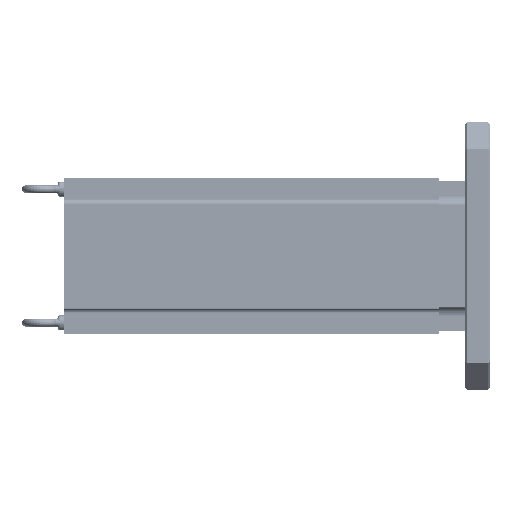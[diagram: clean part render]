
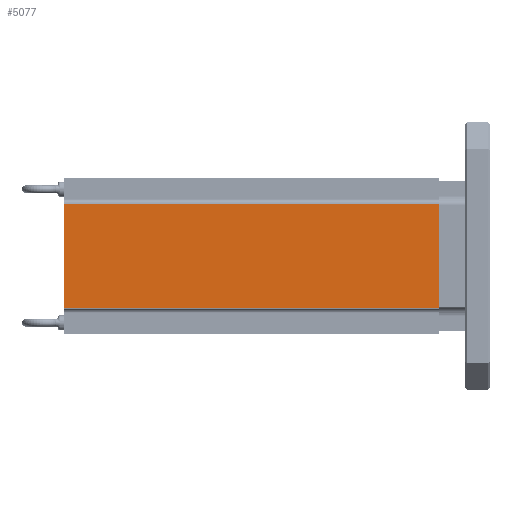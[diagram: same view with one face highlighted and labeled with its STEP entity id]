
A CAD part, left-side view. The second image highlights one B-rep face of the part: STEP entity #5077.
In plain terms, the highlighted planar face has unit normal (-1, 0, 0).
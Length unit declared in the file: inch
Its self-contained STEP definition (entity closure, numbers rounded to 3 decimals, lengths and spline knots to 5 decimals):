
#402 = ORIENTED_EDGE ( 'NONE', *, *, #25172, .T. ) ;
#1013 = CARTESIAN_POINT ( 'NONE',  ( -4.606, 23.62205, -3.091 ) ) ;
#2300 = ORIENTED_EDGE ( 'NONE', *, *, #20884, .F. ) ;
#2989 = AXIS2_PLACEMENT_3D ( 'NONE', #4499, #27969, #13717 ) ;
#3438 = EDGE_CURVE ( 'NONE', #16328, #12920, #16591, .T. ) ;
#3702 = CARTESIAN_POINT ( 'NONE',  ( -4.606, 23.62205, 3.091 ) ) ;
#4499 = CARTESIAN_POINT ( 'NONE',  ( -4.606, 23.62205, -3.121 ) ) ;
#4692 = DIRECTION ( 'NONE',  ( 0., 0., 1. ) ) ;
#5077 = ADVANCED_FACE ( 'NONE', ( #11693 ), #23409, .F. ) ;
#6075 = EDGE_LOOP ( 'NONE', ( #2300, #22669, #6552, #402 ) ) ;
#6502 = DIRECTION ( 'NONE',  ( 0., -1., 0. ) ) ;
#6552 = ORIENTED_EDGE ( 'NONE', *, *, #3438, .F. ) ;
#6994 = CARTESIAN_POINT ( 'NONE',  ( -4.606, 1.5, 0. ) ) ;
#7126 = EDGE_CURVE ( 'NONE', #10393, #12920, #7952, .T. ) ;
#7952 = LINE ( 'NONE', #3702, #23796 ) ;
#7974 = LINE ( 'NONE', #25110, #15270 ) ;
#9435 = CARTESIAN_POINT ( 'NONE',  ( -4.606, 23.62205, 3.091 ) ) ;
#9967 = LINE ( 'NONE', #6994, #21005 ) ;
#10393 = VERTEX_POINT ( 'NONE', #13113 ) ;
#10607 = DIRECTION ( 'NONE',  ( 0., 1., 0. ) ) ;
#11693 = FACE_OUTER_BOUND ( 'NONE', #6075, .T. ) ;
#12920 = VERTEX_POINT ( 'NONE', #9435 ) ;
#13113 = CARTESIAN_POINT ( 'NONE',  ( -4.606, 1.5, 3.091 ) ) ;
#13717 = DIRECTION ( 'NONE',  ( 0., 0., -1. ) ) ;
#14331 = DIRECTION ( 'NONE',  ( 0., 0., -1. ) ) ;
#15270 = VECTOR ( 'NONE', #6502, 39.37008 ) ;
#16328 = VERTEX_POINT ( 'NONE', #1013 ) ;
#16591 = LINE ( 'NONE', #26268, #30917 ) ;
#16900 = CARTESIAN_POINT ( 'NONE',  ( -4.606, 1.5, -3.091 ) ) ;
#18065 = VERTEX_POINT ( 'NONE', #16900 ) ;
#20884 = EDGE_CURVE ( 'NONE', #10393, #18065, #9967, .T. ) ;
#21005 = VECTOR ( 'NONE', #14331, 39.37008 ) ;
#22669 = ORIENTED_EDGE ( 'NONE', *, *, #7126, .T. ) ;
#23409 = PLANE ( 'NONE',  #2989 ) ;
#23796 = VECTOR ( 'NONE', #10607, 39.37008 ) ;
#25110 = CARTESIAN_POINT ( 'NONE',  ( -4.606, 23.62205, -3.091 ) ) ;
#25172 = EDGE_CURVE ( 'NONE', #16328, #18065, #7974, .T. ) ;
#26268 = CARTESIAN_POINT ( 'NONE',  ( -4.606, 23.62205, -3.121 ) ) ;
#27969 = DIRECTION ( 'NONE',  ( 1., 0., 0. ) ) ;
#30917 = VECTOR ( 'NONE', #4692, 39.37008 ) ;
